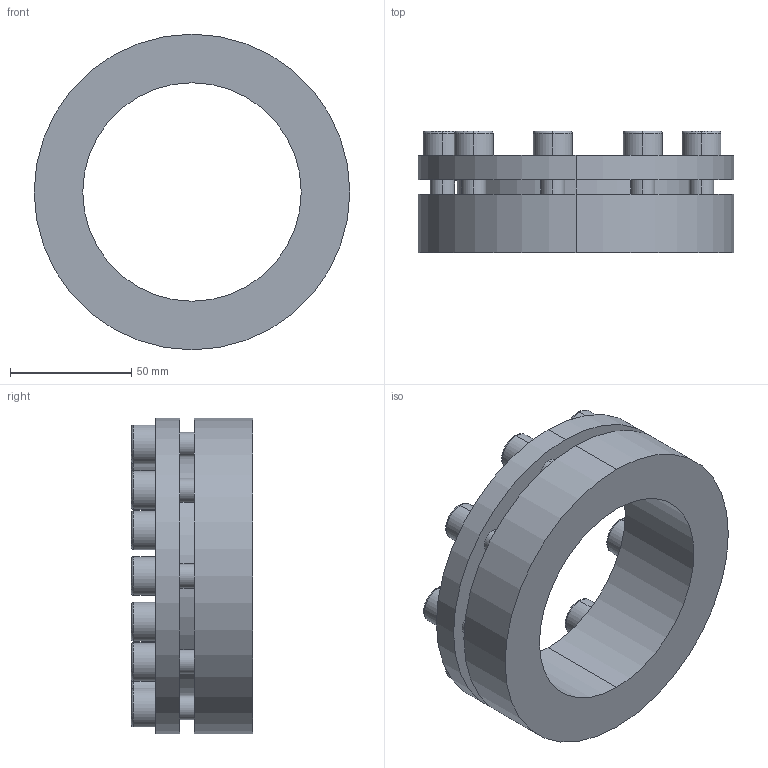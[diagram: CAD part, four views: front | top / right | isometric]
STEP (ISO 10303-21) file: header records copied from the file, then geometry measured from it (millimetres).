
FILE_DESCRIPTION (( 'STEP AP203' ), '1' );
FILE_NAME ('PL-H3 90-130.STEP', '2021-10-23T01:09:31', ( '' ), ( '' ), 'SwSTEP 2.0', 'SolidWorks 2018', '' );
FILE_SCHEMA (( 'CONFIG_CONTROL_DESIGN' ));
Length unit declared in the file: millimetre
Products named in the file (1): PL-H3 90-130
Bounding box: 130 x 50 x 130 mm (x, y, z)
Volume: 261826.8 mm3; surface area: 58181.9 mm2
Topology: 1 solids, 1 shells, 138 faces, 330 edges, 214 vertices
Faces by surface type: plane 76, cylinder 44, torus 18
Entity records: 4131 total; most frequent: DIRECTION 732, CARTESIAN_POINT 683, ORIENTED_EDGE 660, EDGE_CURVE 330, AXIS2_PLACEMENT_3D 263, VERTEX_POINT 214, LINE 206, VECTOR 206
